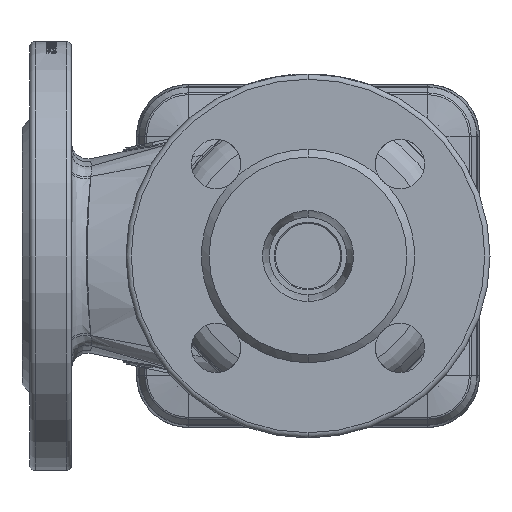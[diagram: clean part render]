
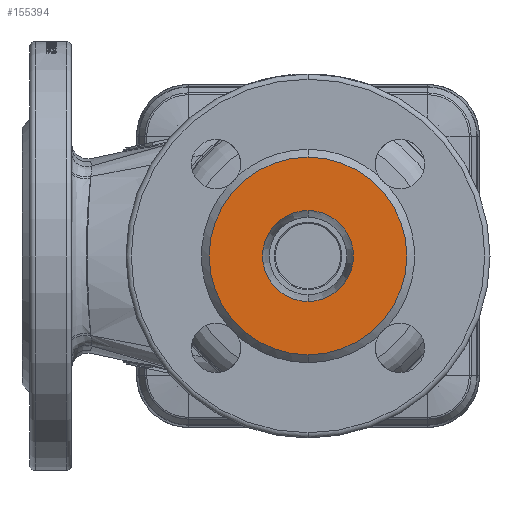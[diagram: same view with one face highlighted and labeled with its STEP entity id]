
A CAD part, front view. The second image highlights one B-rep face of the part: STEP entity #155394.
In plain terms, the highlighted planar face has unit normal (0, -1, 0).
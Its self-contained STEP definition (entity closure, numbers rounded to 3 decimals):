
#1847 = ORIENTED_EDGE ( 'NONE', *, *, #28827, .F. ) ;
#2490 = CARTESIAN_POINT ( 'NONE',  ( 0., -115., -38. ) ) ;
#6213 = VERTEX_POINT ( 'NONE', #58156 ) ;
#7378 = CIRCLE ( 'NONE', #67249, 38. ) ;
#12689 = CARTESIAN_POINT ( 'NONE',  ( 0., -115., 0. ) ) ;
#16037 = EDGE_LOOP ( 'NONE', ( #60730, #29597 ) ) ;
#20184 = DIRECTION ( 'NONE',  ( 0., 0., 1. ) ) ;
#23800 = AXIS2_PLACEMENT_3D ( 'NONE', #89173, #76840, #74722 ) ;
#28827 = EDGE_CURVE ( 'NONE', #72806, #89560, #52098, .T. ) ;
#29597 = ORIENTED_EDGE ( 'NONE', *, *, #89897, .F. ) ;
#35776 = ORIENTED_EDGE ( 'NONE', *, *, #68348, .F. ) ;
#43297 = AXIS2_PLACEMENT_3D ( 'NONE', #115943, #141435, #56185 ) ;
#44307 = CARTESIAN_POINT ( 'NONE',  ( 0., -115., 0. ) ) ;
#44662 = VERTEX_POINT ( 'NONE', #2490 ) ;
#52098 = CIRCLE ( 'NONE', #79039, 17.5 ) ;
#56185 = DIRECTION ( 'NONE',  ( 0., 0., 1. ) ) ;
#57542 = DIRECTION ( 'NONE',  ( 0., 0., 1. ) ) ;
#58156 = CARTESIAN_POINT ( 'NONE',  ( 0., -115., 38. ) ) ;
#60730 = ORIENTED_EDGE ( 'NONE', *, *, #94017, .F. ) ;
#67249 = AXIS2_PLACEMENT_3D ( 'NONE', #44307, #117825, #57542 ) ;
#68348 = EDGE_CURVE ( 'NONE', #89560, #72806, #78763, .T. ) ;
#72806 = VERTEX_POINT ( 'NONE', #76236 ) ;
#74722 = DIRECTION ( 'NONE',  ( 0., 0., 1. ) ) ;
#76236 = CARTESIAN_POINT ( 'NONE',  ( 0., -115., -17.5 ) ) ;
#76840 = DIRECTION ( 'NONE',  ( 0., -1., 0. ) ) ;
#78024 = FACE_OUTER_BOUND ( 'NONE', #16037, .T. ) ;
#78763 = CIRCLE ( 'NONE', #23800, 17.5 ) ;
#79039 = AXIS2_PLACEMENT_3D ( 'NONE', #105912, #93630, #20184 ) ;
#89173 = CARTESIAN_POINT ( 'NONE',  ( 0., -115., 0. ) ) ;
#89560 = VERTEX_POINT ( 'NONE', #99113 ) ;
#89897 = EDGE_CURVE ( 'NONE', #44662, #6213, #101138, .T. ) ;
#90465 = EDGE_LOOP ( 'NONE', ( #35776, #1847 ) ) ;
#93630 = DIRECTION ( 'NONE',  ( 0., -1., 0. ) ) ;
#94017 = EDGE_CURVE ( 'NONE', #6213, #44662, #7378, .T. ) ;
#99113 = CARTESIAN_POINT ( 'NONE',  ( 0., -115., 17.5 ) ) ;
#101138 = CIRCLE ( 'NONE', #109570, 38. ) ;
#105912 = CARTESIAN_POINT ( 'NONE',  ( 0., -115., 0. ) ) ;
#109570 = AXIS2_PLACEMENT_3D ( 'NONE', #12689, #134650, #133559 ) ;
#110477 = FACE_BOUND ( 'NONE', #90465, .T. ) ;
#115943 = CARTESIAN_POINT ( 'NONE',  ( 0., -115., 0. ) ) ;
#117825 = DIRECTION ( 'NONE',  ( 0., 1., 0. ) ) ;
#129209 = PLANE ( 'NONE',  #43297 ) ;
#133559 = DIRECTION ( 'NONE',  ( 0., 0., 1. ) ) ;
#134650 = DIRECTION ( 'NONE',  ( 0., 1., 0. ) ) ;
#141435 = DIRECTION ( 'NONE',  ( 0., 1., 0. ) ) ;
#155394 = ADVANCED_FACE ( 'NONE', ( #78024, #110477 ), #129209, .F. ) ;
